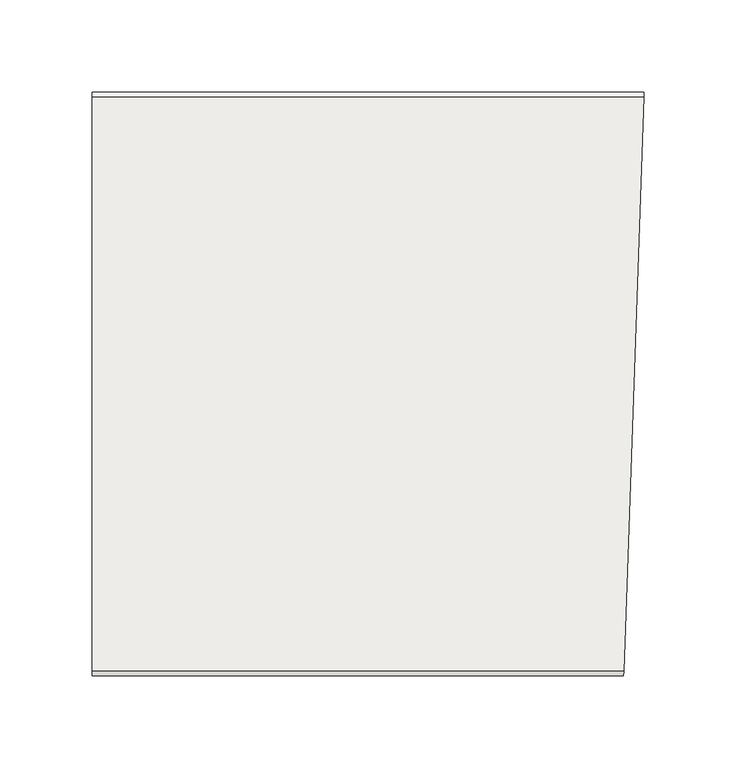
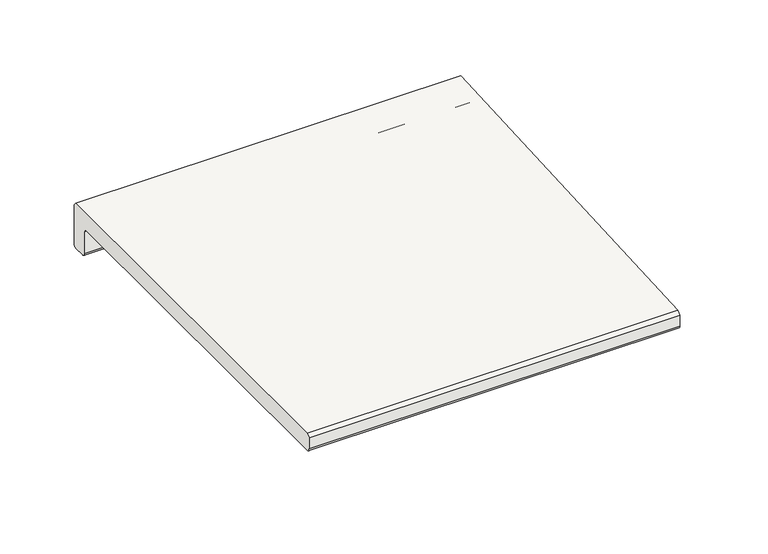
"""IFC4 building model written with IfcOpenShell, lengths in millimetres: slab geometry, ROSA GRES_L62 (corte) : Pieza L62_Serena_Ocra_Anti-Slip."""

from ifc_helpers import new_model, si_unit, frame, origin, place, context, project, spatial, polyline, circle_curve, ellipse_curve, source, transform, mapped, element, save
from ifc_brep_helpers import plane_surface, cylinder_surface, revolved_surface, advanced_brep


def slab_b0dec1d6(model_context):
    return source(origin(), model_context, "Body", "AdvancedBrep", [
        advanced_brep(
        [(0.0, 0.0, -20.5), (0.0, -2.5, -23.0), (0.0, -11.5, -23.0), (0.0, -14.0, -20.5), (0.0, -14.0, -2.5), (0.0, -16.5, 0.0), (0.0, -314.5, 0.0), (0.0, -317.0, 2.5), (0.0, -317.0, 11.5), (0.0, -314.5, 14.0), (0.0, -2.5, 14.0), (0.0, 0.0, 11.5), (299.7380942, -2.5, 14.0), (299.8253962, 0.0, 11.5), (288.7555122, -317.0, 11.5), (288.8428141, -314.5, 14.0), (299.7380942, -2.5, -23.0), (299.4238073, -11.5, -23.0), (288.8428141, -314.5, 0.0), (288.7555122, -317.0, 2.5), (299.8253962, 0.0, -20.5), (299.3365054, -14.0, -20.5), (299.2492035, -16.5, 0.0), (299.3365054, -14.0, -2.5)],
        [
            (0, 1, circle_curve(frame((0.0, -2.5, -20.5), z_axis=(-1.0, 0.0, 0.0), x_axis=(0.0, 0.0, -1.0)), 2.5)),
            (1, 2),
            (2, 3, circle_curve(frame((0.0, -11.5, -20.5), z_axis=(-1.0, 0.0, 0.0), x_axis=(0.0, 0.0, -1.0)), 2.5)),
            (3, 4),
            (4, 5, circle_curve(frame((0.0, -16.5, -2.5), z_axis=(1.0, 0.0, 0.0), x_axis=(0.0, 0.0, -1.0)), 2.5)),
            (5, 6),
            (6, 7, circle_curve(frame((0.0, -314.5, 2.5), z_axis=(-1.0, 0.0, 0.0), x_axis=(0.0, 0.0, -1.0)), 2.5)),
            (7, 8),
            (8, 9),
            (9, 10),
            (10, 11),
            (11, 0),
            (10, 12),
            (12, 13),
            (13, 11),
            (8, 14),
            (14, 15),
            (15, 9),
            (1, 16),
            (16, 17),
            (17, 2),
            (6, 18),
            (18, 19, ellipse_curve(frame((288.8428141, -314.5, 2.5), z_axis=(-0.9993908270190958, 0.03489949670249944, 0.0), x_axis=(-0.03489949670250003, -0.9993908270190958, 0.0)), 2.5015239, 2.5)),
            (19, 7),
            (19, 14),
            (13, 20),
            (20, 0),
            (20, 16, ellipse_curve(frame((299.7380942, -2.5, -20.5), z_axis=(-0.9993908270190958, 0.03489949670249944, 0.0), x_axis=(-0.03489949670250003, -0.9993908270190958, 0.0)), 2.5015239, 2.5)),
            (17, 21, ellipse_curve(frame((299.4238073, -11.5, -20.5), z_axis=(-0.9993908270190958, 0.03489949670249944, 0.0), x_axis=(-0.03489949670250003, -0.9993908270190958, 0.0)), 2.5015239, 2.5)),
            (21, 3),
            (15, 12),
            (5, 22),
            (22, 18),
            (4, 23),
            (23, 22, ellipse_curve(frame((299.2492035, -16.5, -2.5), z_axis=(0.9993908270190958, -0.03489949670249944, 0.0), x_axis=(0.03489949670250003, 0.9993908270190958, 0.0)), 2.5015239, 2.5)),
            (21, 23),
        ],
        [
            plane_surface(frame((0.0, 0.0, 0.0), z_axis=(-1.0, 0.0, 0.0), x_axis=(0.0, 0.0, 1.0))),
            plane_surface(frame((0.0, 0.0, 11.5), z_axis=(0.0, 0.707106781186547, 0.7071067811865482), x_axis=(1.0, 0.0, 0.0))),
            plane_surface(frame((0.0, -314.5, 14.0), z_axis=(0.0, -0.707106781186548, 0.707106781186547), x_axis=(1.0, 0.0, 0.0))),
            plane_surface(frame((0.0, -11.5, -23.0), z_axis=(0.0, 0.0, -1.0), x_axis=(1.0, 0.0, 0.0))),
            cylinder_surface(frame((0.0, -314.5, 2.5), z_axis=(-1.0, 0.0, 0.0), x_axis=(0.0, 0.0, -1.0)), 2.5),
            plane_surface(frame((0.0, -317.0, 11.5), z_axis=(0.0, -1.0, 0.0), x_axis=(1.0, 0.0, 0.0))),
            plane_surface(frame((0.0, 0.0, -20.5), z_axis=(0.0, 1.0, 0.0), x_axis=(1.0, 0.0, 0.0))),
            cylinder_surface(frame((0.0, -2.5, -20.5), z_axis=(-1.0, 0.0, 0.0), x_axis=(0.0, 0.0, -1.0)), 2.5),
            cylinder_surface(frame((0.0, -11.5, -20.5), z_axis=(-1.0, 0.0, 0.0), x_axis=(0.0, 0.0, -1.0)), 2.5),
            plane_surface(frame((0.0, -2.5, 14.0), z_axis=(0.0, 0.0, 1.0), x_axis=(1.0, 0.0, 0.0))),
            plane_surface(frame((0.0, -314.5, 0.0), z_axis=(0.0, 0.0, -1.0), x_axis=(1.0, 0.0, 0.0))),
            revolved_surface(polyline([(299.3365054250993, -16.5, -5.0), (0.0, -16.5, -5.0)]), (0.0, -16.5, -2.5), (1.0, 0.0, 0.0)),
            plane_surface(frame((0.0, -14.0, -2.5), z_axis=(0.0, -1.0, 0.0), x_axis=(1.0, 0.0, 0.0))),
            plane_surface(frame((288.5809084, -322.0, 86.9871832), z_axis=(0.9993908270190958, -0.03489949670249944, 0.0), x_axis=(0.0, 0.0, -1.0))),
        ],
        [
            (0, [[1, 2, 3, 4, 5, 6, 7, 8, 9, 10, 11, 12]]),
            (1, [[13, 14, 15, -11]]),
            (2, [[16, 17, 18, -9]]),
            (3, [[19, 20, 21, -2]]),
            (4, [[22, 23, 24, -7]]),
            (5, [[-24, 25, -16, -8]]),
            (6, [[-15, 26, 27, -12]]),
            (7, [[-27, 28, -19, -1]]),
            (8, [[-21, 29, 30, -3]]),
            (9, [[-18, 31, -13, -10]]),
            (10, [[32, 33, -22, -6]]),
            (11, [[34, 35, -32, -5]]),
            (12, [[-30, 36, -34, -4]]),
            (13, [[-14, -31, -17, -25, -23, -33, -35, -36, -29, -20, -28, -26]]),
        ],
    ),
    ])


if __name__ == "__main__":
    model = new_model("IFC4")
    model_context = context("Model", 3, world=origin())
    ifc_project = project(units=[si_unit("LENGTHUNIT", "METRE", prefix="MILLI")], contexts=[model_context])
    site = spatial("IfcSite", under=ifc_project)
    building = spatial("IfcBuilding", under=site)
    placement = place(None, origin())
    slab_shape = slab_b0dec1d6(model_context)
    element("IfcSlab", 1, ObjectType="ROSA GRES_L62 (corte) : Pieza L62_Serena_Ocra_Anti-Slip", at=placement, inside=building, context=model_context, shape_type="MappedRepresentation", body=[
        mapped(slab_shape, transform((0.0, 0.0, 0.0), x_axis=(1.0, 0.0, 0.0), y_axis=(0.0, 1.0, 0.0), z_axis=(0.0, 0.0, 1.0))),
    ])
    save(model, "model.ifc")
